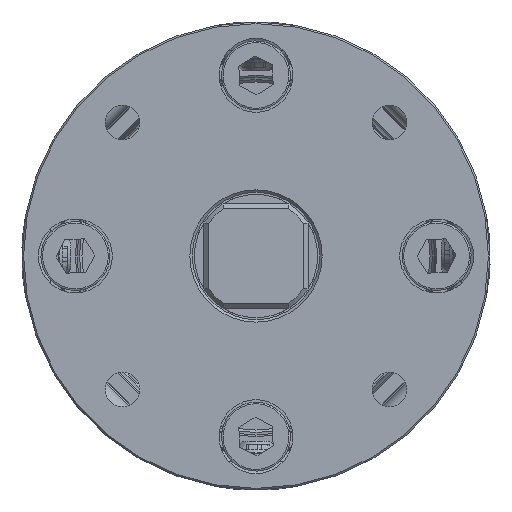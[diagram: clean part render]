
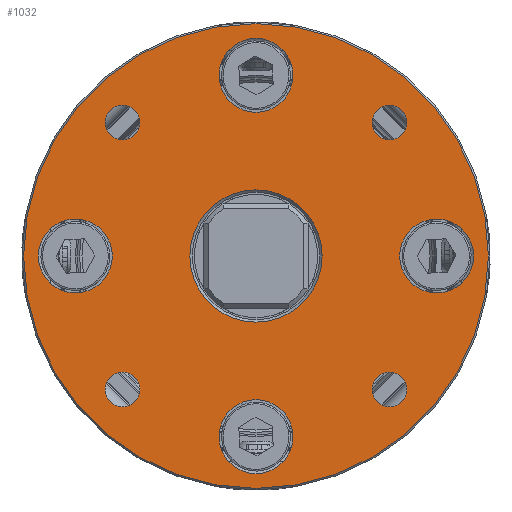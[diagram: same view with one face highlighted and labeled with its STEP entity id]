
A CAD part, left-side view. The second image highlights one B-rep face of the part: STEP entity #1032.
In plain terms, the highlighted planar face has unit normal (-1, 0, 0).
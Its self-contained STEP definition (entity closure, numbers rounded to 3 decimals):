
#149 = AXIS2_PLACEMENT_3D ( 'NONE', #12104, #10007, #7664 ) ;
#177 = ORIENTED_EDGE ( 'NONE', *, *, #11454, .F. ) ;
#278 = PLANE ( 'NONE',  #1756 ) ;
#591 = DIRECTION ( 'NONE',  ( 0., 0., 1. ) ) ;
#744 = CARTESIAN_POINT ( 'NONE',  ( -148., 0., 22. ) ) ;
#795 = EDGE_LOOP ( 'NONE', ( #14399 ) ) ;
#992 = EDGE_CURVE ( 'NONE', #13177, #13177, #8857, .T. ) ;
#1032 = ADVANCED_FACE ( 'NONE', ( #9356, #10649, #11984, #4797, #7023, #1430, #11758, #6103, #9505, #1212 ), #278, .F. ) ;
#1212 = FACE_BOUND ( 'NONE', #3698, .T. ) ;
#1214 = VERTEX_POINT ( 'NONE', #10582 ) ;
#1322 = ORIENTED_EDGE ( 'NONE', *, *, #11774, .F. ) ;
#1430 = FACE_BOUND ( 'NONE', #4812, .T. ) ;
#1618 = DIRECTION ( 'NONE',  ( -1., 0., 0. ) ) ;
#1658 = AXIS2_PLACEMENT_3D ( 'NONE', #8618, #8551, #7454 ) ;
#1732 = AXIS2_PLACEMENT_3D ( 'NONE', #15173, #14244, #2517 ) ;
#1756 = AXIS2_PLACEMENT_3D ( 'NONE', #6259, #2792, #9953 ) ;
#1923 = VERTEX_POINT ( 'NONE', #13571 ) ;
#2301 = CARTESIAN_POINT ( 'NONE',  ( -148., -16.263, -16.263 ) ) ;
#2517 = DIRECTION ( 'NONE',  ( 0., 0., 1. ) ) ;
#2534 = CARTESIAN_POINT ( 'NONE',  ( -148., 22., 4.5 ) ) ;
#2575 = EDGE_LOOP ( 'NONE', ( #7595 ) ) ;
#2599 = EDGE_LOOP ( 'NONE', ( #11892 ) ) ;
#2792 = DIRECTION ( 'NONE',  ( 1., 0., 0. ) ) ;
#2978 = CARTESIAN_POINT ( 'NONE',  ( -148., 0., -8.05 ) ) ;
#3034 = DIRECTION ( 'NONE',  ( -1., 0., 0. ) ) ;
#3164 = ORIENTED_EDGE ( 'NONE', *, *, #8405, .F. ) ;
#3217 = EDGE_CURVE ( 'NONE', #5415, #5415, #6755, .T. ) ;
#3233 = CARTESIAN_POINT ( 'NONE',  ( -148., 18.363, -16.263 ) ) ;
#3437 = DIRECTION ( 'NONE',  ( 0., 0., 1. ) ) ;
#3458 = CIRCLE ( 'NONE', #4185, 2.1 ) ;
#3698 = EDGE_LOOP ( 'NONE', ( #13382 ) ) ;
#3749 = EDGE_LOOP ( 'NONE', ( #8643 ) ) ;
#4026 = CARTESIAN_POINT ( 'NONE',  ( -148., -16.263, 16.263 ) ) ;
#4104 = DIRECTION ( 'NONE',  ( -1., 0., 0. ) ) ;
#4185 = AXIS2_PLACEMENT_3D ( 'NONE', #2301, #7345, #12246 ) ;
#4313 = EDGE_LOOP ( 'NONE', ( #1322 ) ) ;
#4481 = DIRECTION ( 'NONE',  ( 0., 0., -1. ) ) ;
#4581 = CARTESIAN_POINT ( 'NONE',  ( -148., 0., -22. ) ) ;
#4631 = ORIENTED_EDGE ( 'NONE', *, *, #8582, .F. ) ;
#4797 = FACE_BOUND ( 'NONE', #2599, .T. ) ;
#4812 = EDGE_LOOP ( 'NONE', ( #177 ) ) ;
#4968 = ORIENTED_EDGE ( 'NONE', *, *, #992, .F. ) ;
#5375 = CIRCLE ( 'NONE', #5880, 2.1 ) ;
#5415 = VERTEX_POINT ( 'NONE', #2978 ) ;
#5624 = AXIS2_PLACEMENT_3D ( 'NONE', #744, #3034, #591 ) ;
#5880 = AXIS2_PLACEMENT_3D ( 'NONE', #14485, #1618, #6302 ) ;
#5896 = EDGE_LOOP ( 'NONE', ( #4631 ) ) ;
#5991 = CARTESIAN_POINT ( 'NONE',  ( -148., -16.263, -18.363 ) ) ;
#6103 = FACE_BOUND ( 'NONE', #795, .T. ) ;
#6193 = CIRCLE ( 'NONE', #6460, 28.3 ) ;
#6259 = CARTESIAN_POINT ( 'NONE',  ( -148., 7.75, 0. ) ) ;
#6302 = DIRECTION ( 'NONE',  ( 0., 0., 1. ) ) ;
#6303 = CARTESIAN_POINT ( 'NONE',  ( -148., 16.263, 18.363 ) ) ;
#6458 = VERTEX_POINT ( 'NONE', #3233 ) ;
#6460 = AXIS2_PLACEMENT_3D ( 'NONE', #14434, #12053, #13151 ) ;
#6607 = CIRCLE ( 'NONE', #5624, 4.5 ) ;
#6755 = CIRCLE ( 'NONE', #13934, 8.05 ) ;
#6760 = CIRCLE ( 'NONE', #149, 4.5 ) ;
#7023 = FACE_BOUND ( 'NONE', #9248, .T. ) ;
#7033 = CIRCLE ( 'NONE', #1658, 2.1 ) ;
#7345 = DIRECTION ( 'NONE',  ( -1., 0., 0. ) ) ;
#7454 = DIRECTION ( 'NONE',  ( 0., 1., 0. ) ) ;
#7510 = VERTEX_POINT ( 'NONE', #10914 ) ;
#7595 = ORIENTED_EDGE ( 'NONE', *, *, #12497, .T. ) ;
#7664 = DIRECTION ( 'NONE',  ( 0., 0., 1. ) ) ;
#8125 = EDGE_CURVE ( 'NONE', #1214, #1214, #6607, .T. ) ;
#8140 = EDGE_LOOP ( 'NONE', ( #3164 ) ) ;
#8369 = VERTEX_POINT ( 'NONE', #5991 ) ;
#8405 = EDGE_CURVE ( 'NONE', #12175, #12175, #15004, .T. ) ;
#8551 = DIRECTION ( 'NONE',  ( -1., 0., 0. ) ) ;
#8582 = EDGE_CURVE ( 'NONE', #8592, #8592, #5375, .T. ) ;
#8592 = VERTEX_POINT ( 'NONE', #6303 ) ;
#8618 = CARTESIAN_POINT ( 'NONE',  ( -148., 16.263, -16.263 ) ) ;
#8643 = ORIENTED_EDGE ( 'NONE', *, *, #9376, .F. ) ;
#8743 = EDGE_CURVE ( 'NONE', #7510, #7510, #9085, .T. ) ;
#8857 = CIRCLE ( 'NONE', #14299, 4.5 ) ;
#9085 = CIRCLE ( 'NONE', #1732, 4.5 ) ;
#9248 = EDGE_LOOP ( 'NONE', ( #4968 ) ) ;
#9356 = FACE_BOUND ( 'NONE', #4313, .T. ) ;
#9376 = EDGE_CURVE ( 'NONE', #8369, #8369, #3458, .T. ) ;
#9505 = FACE_OUTER_BOUND ( 'NONE', #2575, .T. ) ;
#9523 = CARTESIAN_POINT ( 'NONE',  ( -148., 0., -17.5 ) ) ;
#9836 = CARTESIAN_POINT ( 'NONE',  ( -148., -18.363, 16.263 ) ) ;
#9953 = DIRECTION ( 'NONE',  ( 0., 0., -1. ) ) ;
#10007 = DIRECTION ( 'NONE',  ( -1., 0., 0. ) ) ;
#10401 = DIRECTION ( 'NONE',  ( 1., 0., 0. ) ) ;
#10582 = CARTESIAN_POINT ( 'NONE',  ( -148., 0., 26.5 ) ) ;
#10649 = FACE_BOUND ( 'NONE', #3749, .T. ) ;
#10800 = AXIS2_PLACEMENT_3D ( 'NONE', #4026, #4104, #13439 ) ;
#10914 = CARTESIAN_POINT ( 'NONE',  ( -148., -22., 4.5 ) ) ;
#10994 = VERTEX_POINT ( 'NONE', #2534 ) ;
#11454 = EDGE_CURVE ( 'NONE', #10994, #10994, #6760, .T. ) ;
#11758 = FACE_BOUND ( 'NONE', #5896, .T. ) ;
#11774 = EDGE_CURVE ( 'NONE', #6458, #6458, #7033, .T. ) ;
#11892 = ORIENTED_EDGE ( 'NONE', *, *, #8743, .F. ) ;
#11984 = FACE_BOUND ( 'NONE', #8140, .T. ) ;
#12053 = DIRECTION ( 'NONE',  ( -1., 0., 0. ) ) ;
#12104 = CARTESIAN_POINT ( 'NONE',  ( -148., 22., 0. ) ) ;
#12175 = VERTEX_POINT ( 'NONE', #9836 ) ;
#12246 = DIRECTION ( 'NONE',  ( 0., 0., -1. ) ) ;
#12497 = EDGE_CURVE ( 'NONE', #1923, #1923, #6193, .T. ) ;
#12839 = CARTESIAN_POINT ( 'NONE',  ( -148., 0., 0. ) ) ;
#13151 = DIRECTION ( 'NONE',  ( 0., 0., -1. ) ) ;
#13177 = VERTEX_POINT ( 'NONE', #9523 ) ;
#13382 = ORIENTED_EDGE ( 'NONE', *, *, #8125, .F. ) ;
#13439 = DIRECTION ( 'NONE',  ( 0., -1., 0. ) ) ;
#13571 = CARTESIAN_POINT ( 'NONE',  ( -148., 0., -28.3 ) ) ;
#13934 = AXIS2_PLACEMENT_3D ( 'NONE', #12839, #10401, #4481 ) ;
#14005 = DIRECTION ( 'NONE',  ( -1., 0., 0. ) ) ;
#14244 = DIRECTION ( 'NONE',  ( -1., 0., 0. ) ) ;
#14299 = AXIS2_PLACEMENT_3D ( 'NONE', #4581, #14005, #3437 ) ;
#14399 = ORIENTED_EDGE ( 'NONE', *, *, #3217, .T. ) ;
#14434 = CARTESIAN_POINT ( 'NONE',  ( -148., 0., 0. ) ) ;
#14485 = CARTESIAN_POINT ( 'NONE',  ( -148., 16.263, 16.263 ) ) ;
#15004 = CIRCLE ( 'NONE', #10800, 2.1 ) ;
#15173 = CARTESIAN_POINT ( 'NONE',  ( -148., -22., 0. ) ) ;
